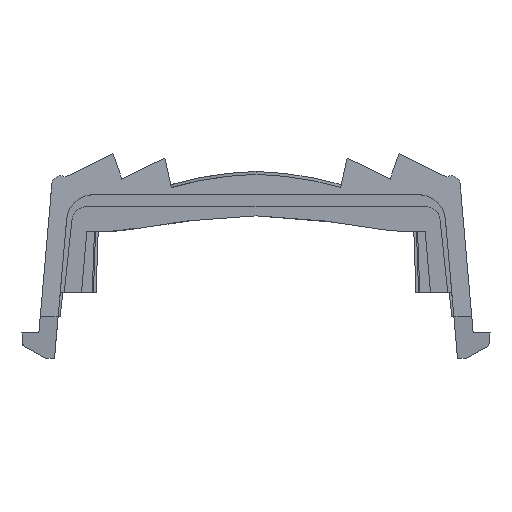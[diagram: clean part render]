
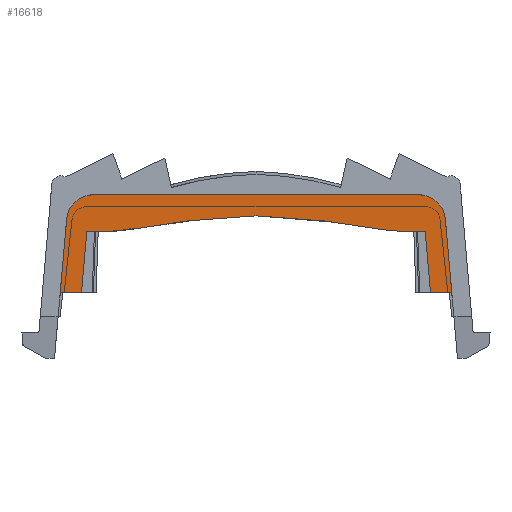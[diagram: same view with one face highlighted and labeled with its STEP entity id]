
A CAD part, left-side view. The second image highlights one B-rep face of the part: STEP entity #16618.
In plain terms, the highlighted planar face has unit normal (-0.999, 0, -0.052).
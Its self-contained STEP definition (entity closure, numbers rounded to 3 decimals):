
#1=DIRECTION('',(0.,1.,0.));
#2=VECTOR('',#1,21.977);
#3=CARTESIAN_POINT('',(-143.966,-10.988,5.976));
#4=LINE('',#3,#2);
#57=CARTESIAN_POINT('',(-143.966,-10.988,5.976));
#58=CARTESIAN_POINT('',(-143.966,-11.541,5.976));
#59=CARTESIAN_POINT('',(-143.945,-12.28,5.575));
#60=CARTESIAN_POINT('',(-143.908,-12.742,4.874));
#61=CARTESIAN_POINT('',(-143.88,-12.791,4.324));
#63=CARTESIAN_POINT('',(-143.836,-11.427,3.494));
#64=CARTESIAN_POINT('',(-143.836,-11.049,3.504));
#65=CARTESIAN_POINT('',(-143.837,-10.283,3.518));
#66=CARTESIAN_POINT('',(-143.837,-9.075,3.521));
#67=CARTESIAN_POINT('',(-143.848,-7.879,3.731));
#68=CARTESIAN_POINT('',(-143.861,-6.614,3.979));
#69=CARTESIAN_POINT('',(-143.87,-5.211,4.147));
#70=CARTESIAN_POINT('',(-143.879,-3.658,4.317));
#71=CARTESIAN_POINT('',(-143.887,-1.939,4.465));
#72=CARTESIAN_POINT('',(-143.891,-0.667,4.541));
#73=CARTESIAN_POINT('',(-143.892,0.,
4.556));
#75=DIRECTION('',(-0.052,-0.087,0.995));
#76=VECTOR('',#75,4.992);
#77=CARTESIAN_POINT('',(-143.619,13.225,-0.642));
#78=LINE('',#77,#76);
#79=CARTESIAN_POINT('',(-143.88,12.791,4.324));
#80=CARTESIAN_POINT('',(-143.908,12.742,4.874));
#81=CARTESIAN_POINT('',(-143.945,12.28,5.575));
#82=CARTESIAN_POINT('',(-143.966,11.541,5.976));
#83=CARTESIAN_POINT('',(-143.966,10.988,5.976));
#89=DIRECTION('',(-0.052,0.087,0.995));
#90=VECTOR('',#89,4.992);
#91=CARTESIAN_POINT('',(-143.619,-13.225,
-0.642));
#92=LINE('',#91,#90);
#109=DIRECTION('',(0.,-1.,0.));
#110=VECTOR('',#109,1.436);
#111=CARTESIAN_POINT('',(-143.619,-11.789,
-0.642));
#112=LINE('',#111,#110);
#149=DIRECTION('',(0.,-1.,0.));
#150=VECTOR('',#149,1.436);
#151=CARTESIAN_POINT('',(-143.619,13.225,
-0.642));
#152=LINE('',#151,#150);
#165=DIRECTION('',(-0.052,-0.087,0.995));
#166=VECTOR('',#165,4.158);
#167=CARTESIAN_POINT('',(-143.619,11.789,
-0.642));
#168=LINE('',#167,#166);
#173=CARTESIAN_POINT('',(-143.836,11.427,3.494));
#174=CARTESIAN_POINT('',(-143.837,11.009,3.505));
#175=CARTESIAN_POINT('',(-143.837,10.149,3.508));
#176=CARTESIAN_POINT('',(-143.839,8.738,3.55));
#177=CARTESIAN_POINT('',(-143.855,7.358,3.853));
#178=CARTESIAN_POINT('',(-143.867,5.817,4.082));
#179=CARTESIAN_POINT('',(-143.877,4.11,4.271));
#180=CARTESIAN_POINT('',(-143.886,2.198,4.448));
#181=CARTESIAN_POINT('',(-143.891,0.759,4.539));
#182=CARTESIAN_POINT('',(-143.892,0.,
4.556));
#196=DIRECTION('',(0.052,-0.087,-0.995));
#197=VECTOR('',#196,4.158);
#198=CARTESIAN_POINT('',(-143.836,-11.427,3.494));
#199=LINE('',#198,#197);
#13544=CARTESIAN_POINT('',(-143.966,-10.988,
5.976));
#13546=VERTEX_POINT('',#13544);
#13548=CARTESIAN_POINT('',(-143.966,10.988,
5.976));
#13549=VERTEX_POINT('',#13548);
#13553=CARTESIAN_POINT('',(-143.88,-12.791,
4.324));
#13554=VERTEX_POINT('',#13553);
#13570=VERTEX_POINT('',#79);
#13571=CARTESIAN_POINT('',(-143.619,-13.225,
-0.642));
#13572=VERTEX_POINT('',#13571);
#13573=CARTESIAN_POINT('',(-143.619,-11.789,
-0.642));
#13574=VERTEX_POINT('',#13573);
#13575=CARTESIAN_POINT('',(-143.836,-11.427,
3.494));
#13576=VERTEX_POINT('',#13575);
#13577=VERTEX_POINT('',#73);
#13578=VERTEX_POINT('',#173);
#13579=CARTESIAN_POINT('',(-143.619,11.789,
-0.642));
#13580=VERTEX_POINT('',#13579);
#13581=CARTESIAN_POINT('',(-143.619,13.225,
-0.642));
#13582=VERTEX_POINT('',#13581);
#16592=CARTESIAN_POINT('',(-143.966,18.43,
5.983));
#16593=DIRECTION('',(-0.999,0.,-0.052));
#16594=DIRECTION('',(0.,-1.,0.));
#16595=AXIS2_PLACEMENT_3D('',#16592,#16593,#16594);
#16596=PLANE('',#16595);
#16597=ORIENTED_EDGE('',*,*,#16542,.T.);
#16599=ORIENTED_EDGE('',*,*,#16598,.F.);
#16601=ORIENTED_EDGE('',*,*,#16600,.F.);
#16603=ORIENTED_EDGE('',*,*,#16602,.F.);
#16605=ORIENTED_EDGE('',*,*,#16604,.T.);
#16607=ORIENTED_EDGE('',*,*,#16606,.F.);
#16609=ORIENTED_EDGE('',*,*,#16608,.F.);
#16611=ORIENTED_EDGE('',*,*,#16610,.F.);
#16613=ORIENTED_EDGE('',*,*,#16612,.T.);
#16614=ORIENTED_EDGE('',*,*,#16583,.T.);
#16615=ORIENTED_EDGE('',*,*,#16524,.F.);
#16616=EDGE_LOOP('',(#16597,#16599,#16601,#16603,#16605,#16607,#16609,#16611,
#16613,#16614,#16615));
#16617=FACE_OUTER_BOUND('',#16616,.F.);
#16618=ADVANCED_FACE('',(#16617),#16596,.T.);
#62=B_SPLINE_CURVE_WITH_KNOTS('',3,(#57,#58,#59,#60,#61),.UNSPECIFIED.,.F.,.F.,(
4,1,4),(0.,0.5,1.),.UNSPECIFIED.);
#74=B_SPLINE_CURVE_WITH_KNOTS('',3,(#63,#64,#65,#66,#67,#68,#69,#70,#71,#72,
#73),.UNSPECIFIED.,.F.,.F.,(4,1,1,1,1,1,1,1,4),(0.,0.125,0.25,0.375,
0.5,0.625,0.75,0.875,1.),.UNSPECIFIED.);
#84=B_SPLINE_CURVE_WITH_KNOTS('',3,(#79,#80,#81,#82,#83),.UNSPECIFIED.,.F.,.F.,(
4,1,4),(0.,0.5,1.),.UNSPECIFIED.);
#183=B_SPLINE_CURVE_WITH_KNOTS('',3,(#173,#174,#175,#176,#177,#178,#179,#180,
#181,#182),.UNSPECIFIED.,.F.,.F.,(4,1,1,1,1,1,1,4),(0.,0.143,
0.286,0.429,0.571,0.714,
0.857,1.),.UNSPECIFIED.);
#16524=EDGE_CURVE('',#13546,#13549,#4,.T.);
#16542=EDGE_CURVE('',#13546,#13554,#62,.T.);
#16583=EDGE_CURVE('',#13570,#13549,#84,.T.);
#16598=EDGE_CURVE('',#13572,#13554,#92,.T.);
#16600=EDGE_CURVE('',#13574,#13572,#112,.T.);
#16602=EDGE_CURVE('',#13576,#13574,#199,.T.);
#16604=EDGE_CURVE('',#13576,#13577,#74,.T.);
#16606=EDGE_CURVE('',#13578,#13577,#183,.T.);
#16608=EDGE_CURVE('',#13580,#13578,#168,.T.);
#16610=EDGE_CURVE('',#13582,#13580,#152,.T.);
#16612=EDGE_CURVE('',#13582,#13570,#78,.T.);
